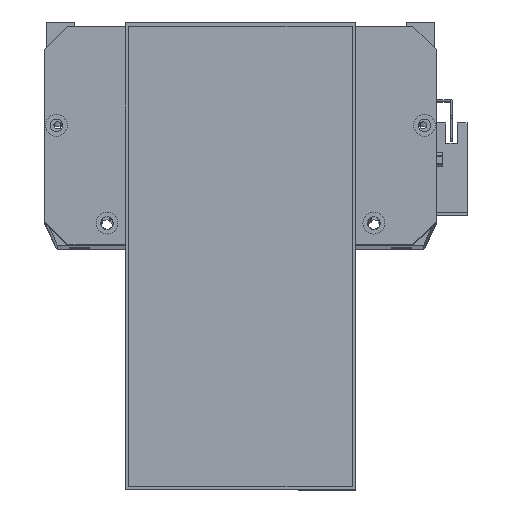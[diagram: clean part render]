
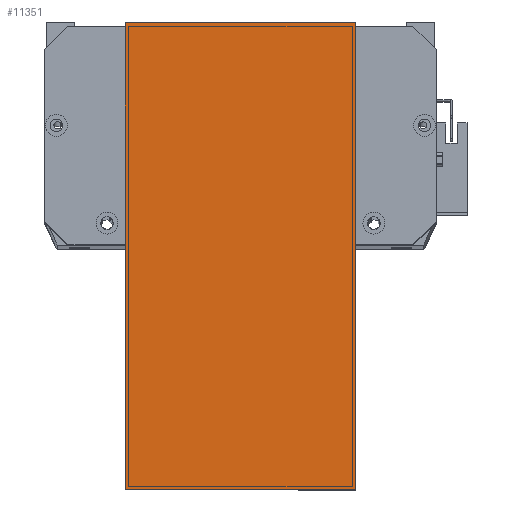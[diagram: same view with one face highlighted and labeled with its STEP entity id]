
A CAD part, top view. The second image highlights one B-rep face of the part: STEP entity #11351.
In plain terms, the highlighted planar face has unit normal (0, 0, 1) as drawn and (0, 0, -1) by its records, which use the part's own axes.
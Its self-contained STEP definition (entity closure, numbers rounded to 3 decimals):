
#924 = CARTESIAN_POINT ( 'NONE',  ( -12., 19.5, 0. ) ) ;
#1565 = CARTESIAN_POINT ( 'NONE',  ( 203., 0., 0. ) ) ;
#2426 = EDGE_CURVE ( 'NONE', #3467, #19717, #20327, .T. ) ;
#3071 = EDGE_LOOP ( 'NONE', ( #14124, #16985, #21145, #25946 ) ) ;
#3128 = CARTESIAN_POINT ( 'NONE',  ( 0., 19.5, 0. ) ) ;
#3467 = VERTEX_POINT ( 'NONE', #3128 ) ;
#3947 = AXIS2_PLACEMENT_3D ( 'NONE', #26489, #28708, #15382 ) ;
#5039 = EDGE_CURVE ( 'NONE', #20226, #27040, #6642, .T. ) ;
#6642 = LINE ( 'NONE', #6676, #18427 ) ;
#6676 = CARTESIAN_POINT ( 'NONE',  ( -12., 119.5, 0. ) ) ;
#7315 = LINE ( 'NONE', #23724, #12526 ) ;
#9856 = DIRECTION ( 'NONE',  ( 1., 0., 0. ) ) ;
#11110 = CARTESIAN_POINT ( 'NONE',  ( 0., 119.5, 0. ) ) ;
#11351 = ADVANCED_FACE ( 'NONE', ( #25155 ), #24248, .T. ) ;
#12526 = VECTOR ( 'NONE', #21388, 1000. ) ;
#13818 = CARTESIAN_POINT ( 'NONE',  ( 203., 19.5, 0. ) ) ;
#14124 = ORIENTED_EDGE ( 'NONE', *, *, #2426, .F. ) ;
#14342 = EDGE_CURVE ( 'NONE', #19717, #27040, #22923, .T. ) ;
#14413 = VECTOR ( 'NONE', #9856, 1000. ) ;
#15382 = DIRECTION ( 'NONE',  ( -1., 0., 0. ) ) ;
#16985 = ORIENTED_EDGE ( 'NONE', *, *, #27686, .F. ) ;
#18427 = VECTOR ( 'NONE', #22195, 1000. ) ;
#18479 = CARTESIAN_POINT ( 'NONE',  ( 203., 119.5, 0. ) ) ;
#19717 = VERTEX_POINT ( 'NONE', #13818 ) ;
#20226 = VERTEX_POINT ( 'NONE', #11110 ) ;
#20327 = LINE ( 'NONE', #924, #14413 ) ;
#21145 = ORIENTED_EDGE ( 'NONE', *, *, #5039, .T. ) ;
#21388 = DIRECTION ( 'NONE',  ( 0., -1., 0. ) ) ;
#21531 = DIRECTION ( 'NONE',  ( 0., 1., 0. ) ) ;
#22195 = DIRECTION ( 'NONE',  ( 1., 0., 0. ) ) ;
#22923 = LINE ( 'NONE', #1565, #27447 ) ;
#23724 = CARTESIAN_POINT ( 'NONE',  ( 0., 0., 0. ) ) ;
#24248 = PLANE ( 'NONE',  #3947 ) ;
#25155 = FACE_OUTER_BOUND ( 'NONE', #3071, .T. ) ;
#25946 = ORIENTED_EDGE ( 'NONE', *, *, #14342, .F. ) ;
#26489 = CARTESIAN_POINT ( 'NONE',  ( 0., 0., 0. ) ) ;
#27040 = VERTEX_POINT ( 'NONE', #18479 ) ;
#27447 = VECTOR ( 'NONE', #21531, 1000. ) ;
#27686 = EDGE_CURVE ( 'NONE', #20226, #3467, #7315, .T. ) ;
#28708 = DIRECTION ( 'NONE',  ( 0., 0., -1. ) ) ;
